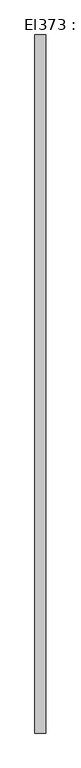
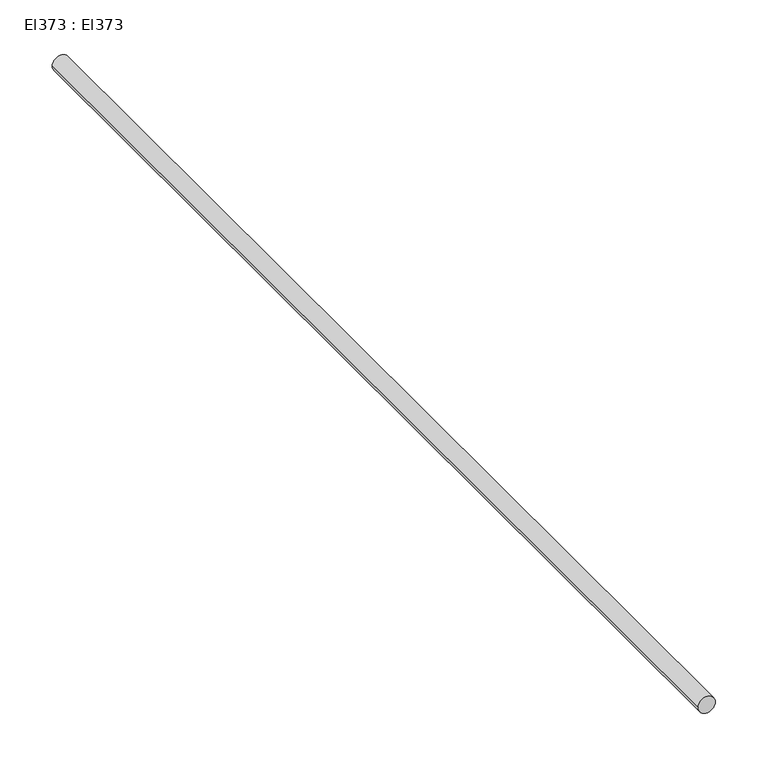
"""IFC4 building model written with IfcOpenShell, lengths in millimetres: cable carrier segment geometry, El373 : El373."""

from ifc_helpers import new_model, si_unit, point, frame, frame_2d, origin, place, context, project, spatial, circle_curve, trimmed, segment, composite_curve, outline, extrude, source, transform, mapped, element, save


def el373_el373_c152597d(model_context):
    return source(origin(), model_context, "Body", "SweptSolid", [
        extrude(outline(composite_curve([segment(trimmed(circle_curve(frame_2d((300.0, 6600.0)), 9.5), [point((300.0, 6590.5))], [point((300.0, 6609.5))], False, "CARTESIAN"), True, "CONTINUOUS"), segment(trimmed(circle_curve(frame_2d((300.0, 6600.0)), 9.5), [point((300.0, 6609.5))], [point((300.0, 6590.5))], False, "CARTESIAN"), True, "CONTINUOUS")], self_intersect=False)), frame((0.0, 17563.59, 0.0), z_axis=(0.0, 1.0, 0.0), x_axis=(0.0, 0.0, 1.0)), (0.0, 0.0, 1.0), 1234.62),
    ])


if __name__ == "__main__":
    model = new_model("IFC4")
    model_context = context("Model", 3, world=origin())
    ifc_project = project(units=[si_unit("LENGTHUNIT", "METRE", prefix="MILLI")], contexts=[model_context])
    site = spatial("IfcSite", under=ifc_project)
    building = spatial("IfcBuilding", under=site)
    placement = place(None, origin())
    el373_el373_shape = el373_el373_c152597d(model_context)
    element("IfcCableCarrierSegment", 1, ObjectType="El373 : El373", at=placement, inside=building, context=model_context, shape_type="MappedRepresentation", body=[
        mapped(el373_el373_shape, transform((0.0, 0.0, 0.0), x_axis=(1.0, 0.0, 0.0), y_axis=(0.0, 1.0, 0.0), z_axis=(0.0, 0.0, 1.0))),
    ])
    save(model, "model.ifc")
